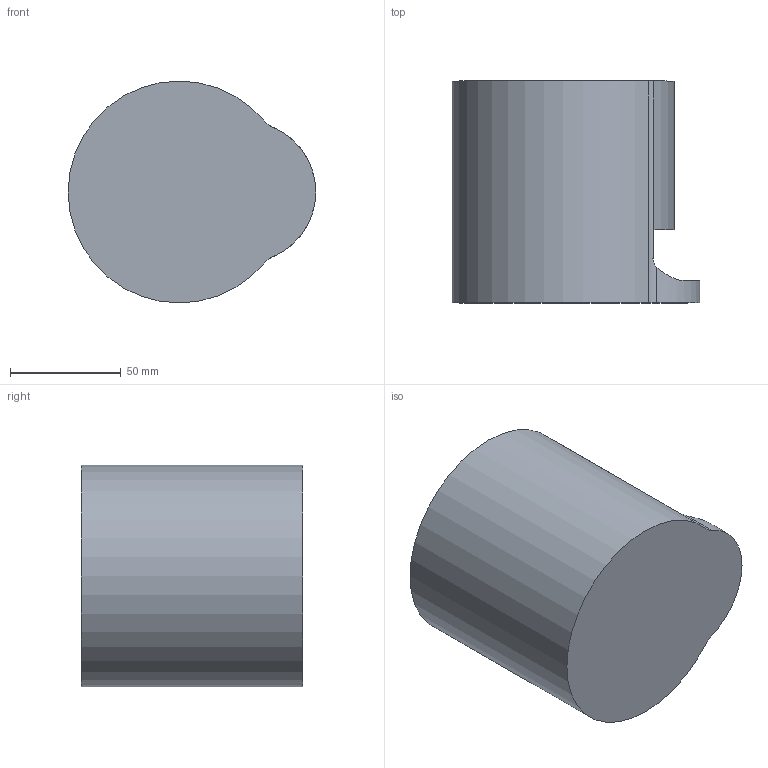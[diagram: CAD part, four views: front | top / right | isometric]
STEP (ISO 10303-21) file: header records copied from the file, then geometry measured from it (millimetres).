
FILE_DESCRIPTION(/* description */ (''),/* implementation_level */ '2;1');
FILE_NAME(/* name */ 'Dispenser_Base_Inventor.stp',/* time_stamp */ '2026-02-16T00:14:14-06:00',/* author */ ('balle'),/* organization */ (''),/* preprocessor_version */ 'ST-DEVELOPER v20.1',/* originating_system */ 'Autodesk Inventor 2026',/* authorisation */ '');
FILE_SCHEMA (('AUTOMOTIVE_DESIGN { 1 0 10303 214 3 1 1 }'));
Length unit declared in the file: millimetre
Products named in the file (1): Dispenser_base
Bounding box: 111.62 x 100 x 100 mm (x, y, z)
Volume: 110029.1 mm3; surface area: 75016.6 mm2
Topology: 1 solids, 1 shells, 18 faces, 51 edges, 34 vertices
Faces by surface type: cylinder 11, plane 7
Full cylindrical faces by diameter (mm): 94 x1
Entity records: 692 total; most frequent: CARTESIAN_POINT 178, ORIENTED_EDGE 102, DIRECTION 97, EDGE_CURVE 51, AXIS2_PLACEMENT_3D 37, VERTEX_POINT 34, LINE 23, VECTOR 23
